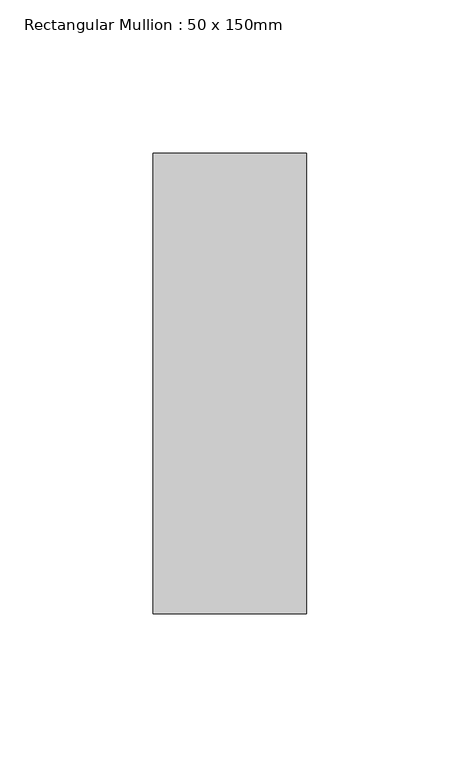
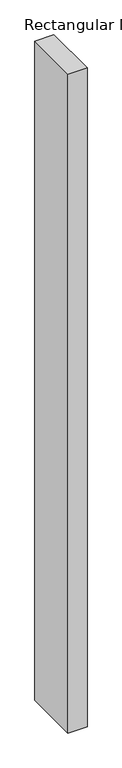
"""IFC4 building model written with IfcOpenShell, lengths in millimetres: member geometry, Rectangular Mullion : 50 x 150mm."""

from ifc_helpers import new_model, si_unit, frame, origin, place, context, project, spatial, polyline, outline, extrude, source, transform, mapped, element, save


def rectangular_mullion_50_x_150mm_5f5d7509(model_context):
    return source(origin(), model_context, "Body", "SweptSolid", [
        extrude(outline(polyline([(0.0, 75.0), (0.0, -75.0), (-50.0, -75.0), (-50.0, 75.0), (0.0, 75.0)])), frame((0.0, 0.0, -1825.0), z_axis=(0.0, 0.0, 1.0), x_axis=(1.0, 0.0, 0.0)), (0.0, 0.0, 1.0), 1825.0),
    ])


if __name__ == "__main__":
    model = new_model("IFC4")
    model_context = context("Model", 3, world=origin())
    ifc_project = project(units=[si_unit("LENGTHUNIT", "METRE", prefix="MILLI")], contexts=[model_context])
    site = spatial("IfcSite", under=ifc_project)
    building = spatial("IfcBuilding", under=site)
    placement = place(None, origin())
    rectangular_mullion_50_x_150mm_shape = rectangular_mullion_50_x_150mm_5f5d7509(model_context)
    element("IfcMember", 1, ObjectType="Rectangular Mullion : 50 x 150mm", at=placement, inside=building, context=model_context, shape_type="MappedRepresentation", body=[
        mapped(rectangular_mullion_50_x_150mm_shape, transform((0.0, 0.0, 0.0), x_axis=(1.0, 0.0, 0.0), y_axis=(0.0, 1.0, 0.0), z_axis=(0.0, 0.0, 1.0))),
    ])
    save(model, "model.ifc")
